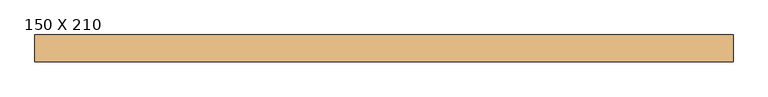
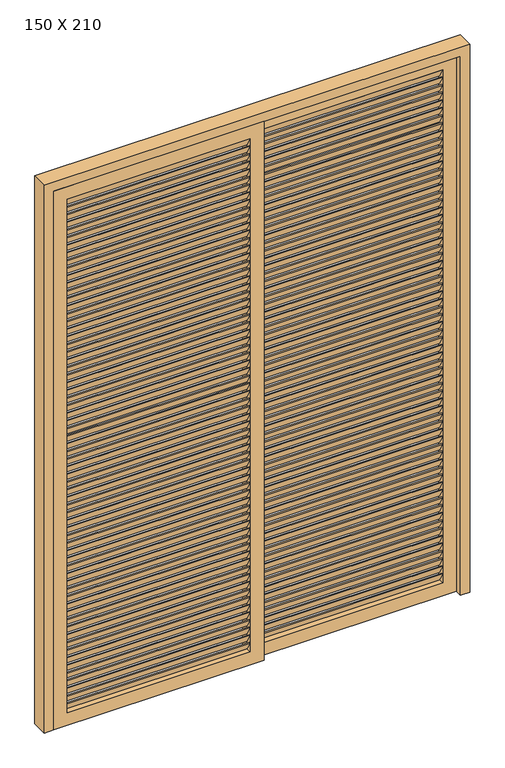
"""IFC4 building model written with IfcOpenShell, lengths in millimetres: door geometry, PORTA VENEZIANA DE CORRER - 2 FOLHAS : 150 X 210."""

import ifcopenshell
import ifcopenshell.guid

model = None  # the IFC model being written
_history = None  # IfcOwnerHistory: only IFC2X3 demands one
_inside = {}  # id of a spatial element -> (the spatial element, [elements in it])
_under = {}  # id of a project, library or spatial element -> (it, [spatial elements below it])
_declared = {}  # id of a project -> (the project, [libraries it declares])
_typed = {}  # id of a type object -> (the type object, [elements of that type])
_made_of = {}  # id of a material, layer set ... -> (it, [elements and type objects made of it])


def new_model(schema):
    """Start an empty IFC model of exactly this schema.

    Asked for "IFC4X3", IfcOpenShell would pick the latest addendum, in which some entities
    have other attributes; the version numbers below select the first issue.
    IFC2X3 requires an IfcOwnerHistory on every rooted entity: one is made here for all.
    """
    global model, _history
    if schema == "IFC4X3":
        model = ifcopenshell.file(schema_version=(4, 3, 0, 0))
    else:
        model = ifcopenshell.file(schema=schema)
    _inside.clear()
    _under.clear()
    _declared.clear()
    _typed.clear()
    _made_of.clear()
    _history = None
    if model.schema == "IFC2X3":
        org = make("IfcOrganization", Name="unknown")
        user = make(
            "IfcPersonAndOrganization",
            ThePerson=make("IfcPerson", FamilyName="unknown"),
            TheOrganization=org,
        )
        app = make(
            "IfcApplication",
            ApplicationDeveloper=org,
            Version="unknown",
            ApplicationFullName="unknown",
            ApplicationIdentifier="unknown",
        )
        _history = make(
            "IfcOwnerHistory",
            OwningUser=user,
            OwningApplication=app,
            ChangeAction="ADDED",
            CreationDate=0,
        )
    return model


def make(cls, **values):
    """One entity of the class cls with the attributes given. An attribute that is None is left unset."""
    return model.create_entity(
        cls, **{name: value for name, value in values.items() if value is not None}
    )


def rooted(cls, **values):
    """An entity with a GlobalId (a new one), such as an element, a storey or a relation."""
    return make(cls, GlobalId=ifcopenshell.guid.new(), OwnerHistory=_history, **values)


def si_unit(unit_type, name, prefix=None):
    """IfcSIUnit, for example si_unit("LENGTHUNIT", "METRE", prefix="MILLI")."""
    return make("IfcSIUnit", UnitType=unit_type, Prefix=prefix, Name=name)


def assignment(units):
    """IfcUnitAssignment: the units of a project."""
    return None if units is None else make("IfcUnitAssignment", Units=units)


def point(xyz):
    """IfcCartesianPoint."""
    return None if xyz is None else make("IfcCartesianPoint", Coordinates=xyz)


def direction(xyz):
    """IfcDirection."""
    return None if xyz is None else make("IfcDirection", DirectionRatios=xyz)


def frame(location, z_axis=None, x_axis=None):
    """IfcAxis2Placement3D, a coordinate frame: its origin and axes. An axis left out is left unset."""
    return make(
        "IfcAxis2Placement3D",
        Location=point(location),
        Axis=direction(z_axis),
        RefDirection=direction(x_axis),
    )


def origin():
    """The frame at (0, 0, 0) with its axes left unset."""
    return frame((0.0, 0.0, 0.0))


def place(relative_to, where):
    """IfcLocalPlacement: puts the frame where relative to a parent placement (None: the world)."""
    return make(
        "IfcLocalPlacement", PlacementRelTo=relative_to, RelativePlacement=where
    )


def context(
    kind, dimensions, precision=None, world=None, true_north=None, identifier=None
):
    """IfcGeometricRepresentationContext, for example the 3D "Model" context."""
    return make(
        "IfcGeometricRepresentationContext",
        ContextIdentifier=identifier,
        ContextType=kind,
        CoordinateSpaceDimension=dimensions,
        Precision=precision,
        WorldCoordinateSystem=world,
        TrueNorth=true_north,
    )


def project(units=None, contexts=None):
    """IfcProject with its units and contexts."""
    return rooted(
        "IfcProject",
        Name="project",
        RepresentationContexts=contexts,
        UnitsInContext=assignment(units),
    )


def spatial(cls, under=None, at=None, **own):
    """A site, building, storey or space (cls), placed at a placement, below another one or the project."""
    s = rooted(cls, ObjectPlacement=at, **own)
    if under is not None:
        _under.setdefault(under.id(), (under, []))[1].append(s)
    return s


def polyline(points):
    """IfcPolyline through the points."""
    return make("IfcPolyline", Points=[point(p) for p in points])


def outline(outer, holes=None, kind="AREA"):
    """IfcArbitraryClosedProfileDef: a profile drawn as a closed curve; with holes, ...WithVoids."""
    if holes is None:
        return make("IfcArbitraryClosedProfileDef", ProfileType=kind, OuterCurve=outer)
    return make(
        "IfcArbitraryProfileDefWithVoids",
        ProfileType=kind,
        OuterCurve=outer,
        InnerCurves=holes,
    )


def extrude(swept, where, along, depth):
    """IfcExtrudedAreaSolid: the profile swept, set in the frame where, extruded along a direction by depth."""
    return make(
        "IfcExtrudedAreaSolid",
        SweptArea=swept,
        Position=where,
        ExtrudedDirection=direction(along),
        Depth=depth,
    )


def shape(context_of_items, identifier, shape_type, items):
    """IfcShapeRepresentation: the items that make up one representation, for example the "Body"."""
    return make(
        "IfcShapeRepresentation",
        ContextOfItems=context_of_items,
        RepresentationIdentifier=identifier,
        RepresentationType=shape_type,
        Items=items,
    )


def source(mapping_origin, context_of_items, identifier, shape_type, items):
    """IfcRepresentationMap: a shape defined once, which mapped items show again and again."""
    return make(
        "IfcRepresentationMap",
        MappingOrigin=mapping_origin,
        MappedRepresentation=shape(context_of_items, identifier, shape_type, items),
    )


def transform(
    local_origin,
    x_axis=None,
    y_axis=None,
    z_axis=None,
    scale=None,
    scale2=None,
    scale3=None,
    uniform=True,
):
    """IfcCartesianTransformationOperator3D, or its non-uniform kind. x_axis, y_axis, z_axis: its Axis1, 2, 3."""
    if uniform:
        return make(
            "IfcCartesianTransformationOperator3D",
            Axis1=direction(x_axis),
            Axis2=direction(y_axis),
            LocalOrigin=point(local_origin),
            Scale=scale,
            Axis3=direction(z_axis),
        )
    return make(
        "IfcCartesianTransformationOperator3DnonUniform",
        Axis1=direction(x_axis),
        Axis2=direction(y_axis),
        LocalOrigin=point(local_origin),
        Scale=scale,
        Axis3=direction(z_axis),
        Scale2=scale2,
        Scale3=scale3,
    )


def mapped(mapping_source, mapping_target):
    """IfcMappedItem: shows the shape of a source again, moved by a transform."""
    return make(
        "IfcMappedItem", MappingSource=mapping_source, MappingTarget=mapping_target
    )


def made_of(thing, what):
    """Note that an element or type object is made of a material, layer set ...; save() writes the relation."""
    if what is not None:
        _made_of.setdefault(what.id(), (what, []))[1].append(thing)
    return thing


def element(
    cls,
    number,
    at=None,
    inside=None,
    cuts=None,
    type_object=None,
    material=None,
    context=None,
    identifier="Body",
    shape_type=None,
    held_by="IfcProductDefinitionShape",
    body=None,
    shapes=None,
    **own,
):
    """One element of the class cls, such as IfcWall. Its Tag is "e" and its number.

    at: its placement. inside: the storey or other place that contains it. cuts: it is an
    opening in that element (IfcRelVoidsElement). A single representation is given by context,
    identifier, shape_type and body (its items); several are given by shapes. held_by: the class
    of the entity that holds the representations. save() writes the other relations.
    """
    e = rooted(cls, Tag="e%d" % number, ObjectPlacement=at, **own)
    if body is not None:
        shapes = [shape(context, identifier, shape_type, body)]
    if shapes is not None:
        e.Representation = make(held_by, Representations=shapes)
    if inside is not None:
        _inside.setdefault(inside.id(), (inside, []))[1].append(e)
    if cuts is not None:
        rooted(
            "IfcRelVoidsElement", RelatingBuildingElement=cuts, RelatedOpeningElement=e
        )
    if type_object is not None:
        _typed.setdefault(type_object.id(), (type_object, []))[1].append(e)
    return made_of(e, material)


def aggregate(whole, parts):
    """IfcRelAggregates: a whole, such as a stair, and the parts it consists of."""
    return rooted("IfcRelAggregates", RelatingObject=whole, RelatedObjects=parts)


def save(model, path):
    """Write the relations noted so far, then the file.

    IfcRelAggregates (storeys below a building ...), IfcRelContainedInSpatialStructure (elements
    in a storey), IfcRelDefinesByType, IfcRelAssociatesMaterial and IfcRelDeclares: one each for
    every whole, place, type object, material and project.
    """
    for whole, parts in _under.values():
        aggregate(whole, parts)
    for where, things in _inside.values():
        rooted(
            "IfcRelContainedInSpatialStructure",
            RelatedElements=things,
            RelatingStructure=where,
        )
    for kind, things in _typed.values():
        rooted("IfcRelDefinesByType", RelatedObjects=things, RelatingType=kind)
    for what, things in _made_of.values():
        rooted("IfcRelAssociatesMaterial", RelatedObjects=things, RelatingMaterial=what)
    for by, libraries in _declared.values():
        rooted("IfcRelDeclares", RelatingContext=by, RelatedDefinitions=libraries)
    model.write(path)


def door_150_x_210_43c40135(model_context):
    return source(origin(), model_context, "Body", "SweptSolid", [
        extrude(outline(polyline([(-28.0041286, 1985.2272727), (-48.0041286, 2020.2272727), (-43.0041286, 2020.2272727), (-23.0041286, 1985.2272727), (-28.0041286, 1985.2272727)])), frame((98.1608739, 0.0, 0.0), z_axis=(1.0, 0.0, 0.0), x_axis=(0.0, 1.0, 0.0)), (0.0, 0.0, 1.0), 675.0),
        extrude(outline(polyline([(-28.0041286, 1955.4545455), (-48.0041286, 1990.4545455), (-43.0041286, 1990.4545455), (-23.0041286, 1955.4545455), (-28.0041286, 1955.4545455)])), frame((98.1608739, 0.0, 0.0), z_axis=(1.0, 0.0, 0.0), x_axis=(0.0, 1.0, 0.0)), (0.0, 0.0, 1.0), 675.0),
        extrude(outline(polyline([(-28.0041286, 1925.6818182), (-48.0041286, 1960.6818182), (-43.0041286, 1960.6818182), (-23.0041286, 1925.6818182), (-28.0041286, 1925.6818182)])), frame((98.1608739, 0.0, 0.0), z_axis=(1.0, 0.0, 0.0), x_axis=(0.0, 1.0, 0.0)), (0.0, 0.0, 1.0), 675.0),
        extrude(outline(polyline([(-28.0041286, 1895.9090909), (-48.0041286, 1930.9090909), (-43.0041286, 1930.9090909), (-23.0041286, 1895.9090909), (-28.0041286, 1895.9090909)])), frame((98.1608739, 0.0, 0.0), z_axis=(1.0, 0.0, 0.0), x_axis=(0.0, 1.0, 0.0)), (0.0, 0.0, 1.0), 675.0),
        extrude(outline(polyline([(-28.0041286, 1866.1363636), (-48.0041286, 1901.1363636), (-43.0041286, 1901.1363636), (-23.0041286, 1866.1363636), (-28.0041286, 1866.1363636)])), frame((98.1608739, 0.0, 0.0), z_axis=(1.0, 0.0, 0.0), x_axis=(0.0, 1.0, 0.0)), (0.0, 0.0, 1.0), 675.0),
        extrude(outline(polyline([(-28.0041286, 1836.3636364), (-48.0041286, 1871.3636364), (-43.0041286, 1871.3636364), (-23.0041286, 1836.3636364), (-28.0041286, 1836.3636364)])), frame((98.1608739, 0.0, 0.0), z_axis=(1.0, 0.0, 0.0), x_axis=(0.0, 1.0, 0.0)), (0.0, 0.0, 1.0), 675.0),
        extrude(outline(polyline([(-28.0041286, 1806.5909091), (-48.0041286, 1841.5909091), (-43.0041286, 1841.5909091), (-23.0041286, 1806.5909091), (-28.0041286, 1806.5909091)])), frame((98.1608739, 0.0, 0.0), z_axis=(1.0, 0.0, 0.0), x_axis=(0.0, 1.0, 0.0)), (0.0, 0.0, 1.0), 675.0),
        extrude(outline(polyline([(-28.0041286, 1776.8181818), (-48.0041286, 1811.8181818), (-43.0041286, 1811.8181818), (-23.0041286, 1776.8181818), (-28.0041286, 1776.8181818)])), frame((98.1608739, 0.0, 0.0), z_axis=(1.0, 0.0, 0.0), x_axis=(0.0, 1.0, 0.0)), (0.0, 0.0, 1.0), 675.0),
        extrude(outline(polyline([(-28.0041286, 1747.0454545), (-48.0041286, 1782.0454545), (-43.0041286, 1782.0454545), (-23.0041286, 1747.0454545), (-28.0041286, 1747.0454545)])), frame((98.1608739, 0.0, 0.0), z_axis=(1.0, 0.0, 0.0), x_axis=(0.0, 1.0, 0.0)), (0.0, 0.0, 1.0), 675.0),
        extrude(outline(polyline([(-28.0041286, 1717.2727273), (-48.0041286, 1752.2727273), (-43.0041286, 1752.2727273), (-23.0041286, 1717.2727273), (-28.0041286, 1717.2727273)])), frame((98.1608739, 0.0, 0.0), z_axis=(1.0, 0.0, 0.0), x_axis=(0.0, 1.0, 0.0)), (0.0, 0.0, 1.0), 675.0),
        extrude(outline(polyline([(-28.0041286, 1687.5), (-48.0041286, 1722.5), (-43.0041286, 1722.5), (-23.0041286, 1687.5), (-28.0041286, 1687.5)])), frame((98.1608739, 0.0, 0.0), z_axis=(1.0, 0.0, 0.0), x_axis=(0.0, 1.0, 0.0)), (0.0, 0.0, 1.0), 675.0),
        extrude(outline(polyline([(-28.0041286, 1657.7272727), (-48.0041286, 1692.7272727), (-43.0041286, 1692.7272727), (-23.0041286, 1657.7272727), (-28.0041286, 1657.7272727)])), frame((98.1608739, 0.0, 0.0), z_axis=(1.0, 0.0, 0.0), x_axis=(0.0, 1.0, 0.0)), (0.0, 0.0, 1.0), 675.0),
        extrude(outline(polyline([(-28.0041286, 1627.9545455), (-48.0041286, 1662.9545455), (-43.0041286, 1662.9545455), (-23.0041286, 1627.9545455), (-28.0041286, 1627.9545455)])), frame((98.1608739, 0.0, 0.0), z_axis=(1.0, 0.0, 0.0), x_axis=(0.0, 1.0, 0.0)), (0.0, 0.0, 1.0), 675.0),
        extrude(outline(polyline([(-28.0041286, 1598.1818182), (-48.0041286, 1633.1818182), (-43.0041286, 1633.1818182), (-23.0041286, 1598.1818182), (-28.0041286, 1598.1818182)])), frame((98.1608739, 0.0, 0.0), z_axis=(1.0, 0.0, 0.0), x_axis=(0.0, 1.0, 0.0)), (0.0, 0.0, 1.0), 675.0),
        extrude(outline(polyline([(-28.0041286, 1568.4090909), (-48.0041286, 1603.4090909), (-43.0041286, 1603.4090909), (-23.0041286, 1568.4090909), (-28.0041286, 1568.4090909)])), frame((98.1608739, 0.0, 0.0), z_axis=(1.0, 0.0, 0.0), x_axis=(0.0, 1.0, 0.0)), (0.0, 0.0, 1.0), 675.0),
        extrude(outline(polyline([(-28.0041286, 1538.6363636), (-48.0041286, 1573.6363636), (-43.0041286, 1573.6363636), (-23.0041286, 1538.6363636), (-28.0041286, 1538.6363636)])), frame((98.1608739, 0.0, 0.0), z_axis=(1.0, 0.0, 0.0), x_axis=(0.0, 1.0, 0.0)), (0.0, 0.0, 1.0), 675.0),
        extrude(outline(polyline([(-28.0041286, 1508.8636364), (-48.0041286, 1543.8636364), (-43.0041286, 1543.8636364), (-23.0041286, 1508.8636364), (-28.0041286, 1508.8636364)])), frame((98.1608739, 0.0, 0.0), z_axis=(1.0, 0.0, 0.0), x_axis=(0.0, 1.0, 0.0)), (0.0, 0.0, 1.0), 675.0),
        extrude(outline(polyline([(-28.0041286, 1479.0909091), (-48.0041286, 1514.0909091), (-43.0041286, 1514.0909091), (-23.0041286, 1479.0909091), (-28.0041286, 1479.0909091)])), frame((98.1608739, 0.0, 0.0), z_axis=(1.0, 0.0, 0.0), x_axis=(0.0, 1.0, 0.0)), (0.0, 0.0, 1.0), 675.0),
        extrude(outline(polyline([(-28.0041286, 1449.3181818), (-48.0041286, 1484.3181818), (-43.0041286, 1484.3181818), (-23.0041286, 1449.3181818), (-28.0041286, 1449.3181818)])), frame((98.1608739, 0.0, 0.0), z_axis=(1.0, 0.0, 0.0), x_axis=(0.0, 1.0, 0.0)), (0.0, 0.0, 1.0), 675.0),
        extrude(outline(polyline([(-28.0041286, 1419.5454545), (-48.0041286, 1454.5454545), (-43.0041286, 1454.5454545), (-23.0041286, 1419.5454545), (-28.0041286, 1419.5454545)])), frame((98.1608739, 0.0, 0.0), z_axis=(1.0, 0.0, 0.0), x_axis=(0.0, 1.0, 0.0)), (0.0, 0.0, 1.0), 675.0),
        extrude(outline(polyline([(-28.0041286, 1389.7727273), (-48.0041286, 1424.7727273), (-43.0041286, 1424.7727273), (-23.0041286, 1389.7727273), (-28.0041286, 1389.7727273)])), frame((98.1608739, 0.0, 0.0), z_axis=(1.0, 0.0, 0.0), x_axis=(0.0, 1.0, 0.0)), (0.0, 0.0, 1.0), 675.0),
        extrude(outline(polyline([(-28.0041286, 1360.0), (-48.0041286, 1395.0), (-43.0041286, 1395.0), (-23.0041286, 1360.0), (-28.0041286, 1360.0)])), frame((98.1608739, 0.0, 0.0), z_axis=(1.0, 0.0, 0.0), x_axis=(0.0, 1.0, 0.0)), (0.0, 0.0, 1.0), 675.0),
        extrude(outline(polyline([(-28.0041286, 1330.2272727), (-48.0041286, 1365.2272727), (-43.0041286, 1365.2272727), (-23.0041286, 1330.2272727), (-28.0041286, 1330.2272727)])), frame((98.1608739, 0.0, 0.0), z_axis=(1.0, 0.0, 0.0), x_axis=(0.0, 1.0, 0.0)), (0.0, 0.0, 1.0), 675.0),
        extrude(outline(polyline([(-28.0041286, 1300.4545455), (-48.0041286, 1335.4545455), (-43.0041286, 1335.4545455), (-23.0041286, 1300.4545455), (-28.0041286, 1300.4545455)])), frame((98.1608739, 0.0, 0.0), z_axis=(1.0, 0.0, 0.0), x_axis=(0.0, 1.0, 0.0)), (0.0, 0.0, 1.0), 675.0),
        extrude(outline(polyline([(-28.0041286, 1270.6818182), (-48.0041286, 1305.6818182), (-43.0041286, 1305.6818182), (-23.0041286, 1270.6818182), (-28.0041286, 1270.6818182)])), frame((98.1608739, 0.0, 0.0), z_axis=(1.0, 0.0, 0.0), x_axis=(0.0, 1.0, 0.0)), (0.0, 0.0, 1.0), 675.0),
        extrude(outline(polyline([(-28.0041286, 1240.9090909), (-48.0041286, 1275.9090909), (-43.0041286, 1275.9090909), (-23.0041286, 1240.9090909), (-28.0041286, 1240.9090909)])), frame((98.1608739, 0.0, 0.0), z_axis=(1.0, 0.0, 0.0), x_axis=(0.0, 1.0, 0.0)), (0.0, 0.0, 1.0), 675.0),
        extrude(outline(polyline([(-28.0041286, 1211.1363636), (-48.0041286, 1246.1363636), (-43.0041286, 1246.1363636), (-23.0041286, 1211.1363636), (-28.0041286, 1211.1363636)])), frame((98.1608739, 0.0, 0.0), z_axis=(1.0, 0.0, 0.0), x_axis=(0.0, 1.0, 0.0)), (0.0, 0.0, 1.0), 675.0),
        extrude(outline(polyline([(-28.0041286, 1181.3636364), (-48.0041286, 1216.3636364), (-43.0041286, 1216.3636364), (-23.0041286, 1181.3636364), (-28.0041286, 1181.3636364)])), frame((98.1608739, 0.0, 0.0), z_axis=(1.0, 0.0, 0.0), x_axis=(0.0, 1.0, 0.0)), (0.0, 0.0, 1.0), 675.0),
        extrude(outline(polyline([(-28.0041286, 1151.5909091), (-48.0041286, 1186.5909091), (-43.0041286, 1186.5909091), (-23.0041286, 1151.5909091), (-28.0041286, 1151.5909091)])), frame((98.1608739, 0.0, 0.0), z_axis=(1.0, 0.0, 0.0), x_axis=(0.0, 1.0, 0.0)), (0.0, 0.0, 1.0), 675.0),
        extrude(outline(polyline([(-28.0041286, 1121.8181818), (-48.0041286, 1156.8181818), (-43.0041286, 1156.8181818), (-23.0041286, 1121.8181818), (-28.0041286, 1121.8181818)])), frame((98.1608739, 0.0, 0.0), z_axis=(1.0, 0.0, 0.0), x_axis=(0.0, 1.0, 0.0)), (0.0, 0.0, 1.0), 675.0),
        extrude(outline(polyline([(-28.0041286, 1092.0454545), (-48.0041286, 1127.0454545), (-43.0041286, 1127.0454545), (-23.0041286, 1092.0454545), (-28.0041286, 1092.0454545)])), frame((98.1608739, 0.0, 0.0), z_axis=(1.0, 0.0, 0.0), x_axis=(0.0, 1.0, 0.0)), (0.0, 0.0, 1.0), 675.0),
        extrude(outline(polyline([(-28.0041286, 1062.2727273), (-48.0041286, 1097.2727273), (-43.0041286, 1097.2727273), (-23.0041286, 1062.2727273), (-28.0041286, 1062.2727273)])), frame((98.1608739, 0.0, 0.0), z_axis=(1.0, 0.0, 0.0), x_axis=(0.0, 1.0, 0.0)), (0.0, 0.0, 1.0), 675.0),
        extrude(outline(polyline([(-28.0041286, 1032.5), (-48.0041286, 1067.5), (-43.0041286, 1067.5), (-23.0041286, 1032.5), (-28.0041286, 1032.5)])), frame((98.1608739, 0.0, 0.0), z_axis=(1.0, 0.0, 0.0), x_axis=(0.0, 1.0, 0.0)), (0.0, 0.0, 1.0), 675.0),
        extrude(outline(polyline([(-28.0041286, 1002.7272727), (-48.0041286, 1037.7272727), (-43.0041286, 1037.7272727), (-23.0041286, 1002.7272727), (-28.0041286, 1002.7272727)])), frame((98.1608739, 0.0, 0.0), z_axis=(1.0, 0.0, 0.0), x_axis=(0.0, 1.0, 0.0)), (0.0, 0.0, 1.0), 675.0),
        extrude(outline(polyline([(-28.0041286, 972.9545455), (-48.0041286, 1007.9545455), (-43.0041286, 1007.9545455), (-23.0041286, 972.9545455), (-28.0041286, 972.9545455)])), frame((98.1608739, 0.0, 0.0), z_axis=(1.0, 0.0, 0.0), x_axis=(0.0, 1.0, 0.0)), (0.0, 0.0, 1.0), 675.0),
        extrude(outline(polyline([(-28.0041286, 943.1818182), (-48.0041286, 978.1818182), (-43.0041286, 978.1818182), (-23.0041286, 943.1818182), (-28.0041286, 943.1818182)])), frame((98.1608739, 0.0, 0.0), z_axis=(1.0, 0.0, 0.0), x_axis=(0.0, 1.0, 0.0)), (0.0, 0.0, 1.0), 675.0),
        extrude(outline(polyline([(-28.0041286, 913.4090909), (-48.0041286, 948.4090909), (-43.0041286, 948.4090909), (-23.0041286, 913.4090909), (-28.0041286, 913.4090909)])), frame((98.1608739, 0.0, 0.0), z_axis=(1.0, 0.0, 0.0), x_axis=(0.0, 1.0, 0.0)), (0.0, 0.0, 1.0), 675.0),
        extrude(outline(polyline([(-28.0041286, 883.6363636), (-48.0041286, 918.6363636), (-43.0041286, 918.6363636), (-23.0041286, 883.6363636), (-28.0041286, 883.6363636)])), frame((98.1608739, 0.0, 0.0), z_axis=(1.0, 0.0, 0.0), x_axis=(0.0, 1.0, 0.0)), (0.0, 0.0, 1.0), 675.0),
        extrude(outline(polyline([(-28.0041286, 853.8636364), (-48.0041286, 888.8636364), (-43.0041286, 888.8636364), (-23.0041286, 853.8636364), (-28.0041286, 853.8636364)])), frame((98.1608739, 0.0, 0.0), z_axis=(1.0, 0.0, 0.0), x_axis=(0.0, 1.0, 0.0)), (0.0, 0.0, 1.0), 675.0),
        extrude(outline(polyline([(-28.0041286, 824.0909091), (-48.0041286, 859.0909091), (-43.0041286, 859.0909091), (-23.0041286, 824.0909091), (-28.0041286, 824.0909091)])), frame((98.1608739, 0.0, 0.0), z_axis=(1.0, 0.0, 0.0), x_axis=(0.0, 1.0, 0.0)), (0.0, 0.0, 1.0), 675.0),
        extrude(outline(polyline([(-28.0041286, 794.3181818), (-48.0041286, 829.3181818), (-43.0041286, 829.3181818), (-23.0041286, 794.3181818), (-28.0041286, 794.3181818)])), frame((98.1608739, 0.0, 0.0), z_axis=(1.0, 0.0, 0.0), x_axis=(0.0, 1.0, 0.0)), (0.0, 0.0, 1.0), 675.0),
        extrude(outline(polyline([(-28.0041286, 764.5454545), (-48.0041286, 799.5454545), (-43.0041286, 799.5454545), (-23.0041286, 764.5454545), (-28.0041286, 764.5454545)])), frame((98.1608739, 0.0, 0.0), z_axis=(1.0, 0.0, 0.0), x_axis=(0.0, 1.0, 0.0)), (0.0, 0.0, 1.0), 675.0),
        extrude(outline(polyline([(-28.0041286, 734.7727273), (-48.0041286, 769.7727273), (-43.0041286, 769.7727273), (-23.0041286, 734.7727273), (-28.0041286, 734.7727273)])), frame((98.1608739, 0.0, 0.0), z_axis=(1.0, 0.0, 0.0), x_axis=(0.0, 1.0, 0.0)), (0.0, 0.0, 1.0), 675.0),
        extrude(outline(polyline([(-28.0041286, 705.0), (-48.0041286, 740.0), (-43.0041286, 740.0), (-23.0041286, 705.0), (-28.0041286, 705.0)])), frame((98.1608739, 0.0, 0.0), z_axis=(1.0, 0.0, 0.0), x_axis=(0.0, 1.0, 0.0)), (0.0, 0.0, 1.0), 675.0),
        extrude(outline(polyline([(-28.0041286, 675.2272727), (-48.0041286, 710.2272727), (-43.0041286, 710.2272727), (-23.0041286, 675.2272727), (-28.0041286, 675.2272727)])), frame((98.1608739, 0.0, 0.0), z_axis=(1.0, 0.0, 0.0), x_axis=(0.0, 1.0, 0.0)), (0.0, 0.0, 1.0), 675.0),
        extrude(outline(polyline([(-28.0041286, 645.4545455), (-48.0041286, 680.4545455), (-43.0041286, 680.4545455), (-23.0041286, 645.4545455), (-28.0041286, 645.4545455)])), frame((98.1608739, 0.0, 0.0), z_axis=(1.0, 0.0, 0.0), x_axis=(0.0, 1.0, 0.0)), (0.0, 0.0, 1.0), 675.0),
        extrude(outline(polyline([(-28.0041286, 615.6818182), (-48.0041286, 650.6818182), (-43.0041286, 650.6818182), (-23.0041286, 615.6818182), (-28.0041286, 615.6818182)])), frame((98.1608739, 0.0, 0.0), z_axis=(1.0, 0.0, 0.0), x_axis=(0.0, 1.0, 0.0)), (0.0, 0.0, 1.0), 675.0),
        extrude(outline(polyline([(-28.0041286, 585.9090909), (-48.0041286, 620.9090909), (-43.0041286, 620.9090909), (-23.0041286, 585.9090909), (-28.0041286, 585.9090909)])), frame((98.1608739, 0.0, 0.0), z_axis=(1.0, 0.0, 0.0), x_axis=(0.0, 1.0, 0.0)), (0.0, 0.0, 1.0), 675.0),
        extrude(outline(polyline([(-28.0041286, 556.1363636), (-48.0041286, 591.1363636), (-43.0041286, 591.1363636), (-23.0041286, 556.1363636), (-28.0041286, 556.1363636)])), frame((98.1608739, 0.0, 0.0), z_axis=(1.0, 0.0, 0.0), x_axis=(0.0, 1.0, 0.0)), (0.0, 0.0, 1.0), 675.0),
        extrude(outline(polyline([(-28.0041286, 526.3636364), (-48.0041286, 561.3636364), (-43.0041286, 561.3636364), (-23.0041286, 526.3636364), (-28.0041286, 526.3636364)])), frame((98.1608739, 0.0, 0.0), z_axis=(1.0, 0.0, 0.0), x_axis=(0.0, 1.0, 0.0)), (0.0, 0.0, 1.0), 675.0),
        extrude(outline(polyline([(-28.0041286, 496.5909091), (-48.0041286, 531.5909091), (-43.0041286, 531.5909091), (-23.0041286, 496.5909091), (-28.0041286, 496.5909091)])), frame((98.1608739, 0.0, 0.0), z_axis=(1.0, 0.0, 0.0), x_axis=(0.0, 1.0, 0.0)), (0.0, 0.0, 1.0), 675.0),
        extrude(outline(polyline([(-28.0041286, 466.8181818), (-48.0041286, 501.8181818), (-43.0041286, 501.8181818), (-23.0041286, 466.8181818), (-28.0041286, 466.8181818)])), frame((98.1608739, 0.0, 0.0), z_axis=(1.0, 0.0, 0.0), x_axis=(0.0, 1.0, 0.0)), (0.0, 0.0, 1.0), 675.0),
        extrude(outline(polyline([(-28.0041286, 437.0454545), (-48.0041286, 472.0454545), (-43.0041286, 472.0454545), (-23.0041286, 437.0454545), (-28.0041286, 437.0454545)])), frame((98.1608739, 0.0, 0.0), z_axis=(1.0, 0.0, 0.0), x_axis=(0.0, 1.0, 0.0)), (0.0, 0.0, 1.0), 675.0),
        extrude(outline(polyline([(-28.0041286, 407.2727273), (-48.0041286, 442.2727273), (-43.0041286, 442.2727273), (-23.0041286, 407.2727273), (-28.0041286, 407.2727273)])), frame((98.1608739, 0.0, 0.0), z_axis=(1.0, 0.0, 0.0), x_axis=(0.0, 1.0, 0.0)), (0.0, 0.0, 1.0), 675.0),
        extrude(outline(polyline([(-28.0041286, 377.5), (-48.0041286, 412.5), (-43.0041286, 412.5), (-23.0041286, 377.5), (-28.0041286, 377.5)])), frame((98.1608739, 0.0, 0.0), z_axis=(1.0, 0.0, 0.0), x_axis=(0.0, 1.0, 0.0)), (0.0, 0.0, 1.0), 675.0),
        extrude(outline(polyline([(-28.0041286, 347.7272727), (-48.0041286, 382.7272727), (-43.0041286, 382.7272727), (-23.0041286, 347.7272727), (-28.0041286, 347.7272727)])), frame((98.1608739, 0.0, 0.0), z_axis=(1.0, 0.0, 0.0), x_axis=(0.0, 1.0, 0.0)), (0.0, 0.0, 1.0), 675.0),
        extrude(outline(polyline([(-28.0041286, 317.9545455), (-48.0041286, 352.9545455), (-43.0041286, 352.9545455), (-23.0041286, 317.9545455), (-28.0041286, 317.9545455)])), frame((98.1608739, 0.0, 0.0), z_axis=(1.0, 0.0, 0.0), x_axis=(0.0, 1.0, 0.0)), (0.0, 0.0, 1.0), 675.0),
        extrude(outline(polyline([(-28.0041286, 288.1818182), (-48.0041286, 323.1818182), (-43.0041286, 323.1818182), (-23.0041286, 288.1818182), (-28.0041286, 288.1818182)])), frame((98.1608739, 0.0, 0.0), z_axis=(1.0, 0.0, 0.0), x_axis=(0.0, 1.0, 0.0)), (0.0, 0.0, 1.0), 675.0),
        extrude(outline(polyline([(-28.0041286, 258.4090909), (-48.0041286, 293.4090909), (-43.0041286, 293.4090909), (-23.0041286, 258.4090909), (-28.0041286, 258.4090909)])), frame((98.1608739, 0.0, 0.0), z_axis=(1.0, 0.0, 0.0), x_axis=(0.0, 1.0, 0.0)), (0.0, 0.0, 1.0), 675.0),
        extrude(outline(polyline([(-28.0041286, 228.6363636), (-48.0041286, 263.6363636), (-43.0041286, 263.6363636), (-23.0041286, 228.6363636), (-28.0041286, 228.6363636)])), frame((98.1608739, 0.0, 0.0), z_axis=(1.0, 0.0, 0.0), x_axis=(0.0, 1.0, 0.0)), (0.0, 0.0, 1.0), 675.0),
        extrude(outline(polyline([(-28.0041286, 198.8636364), (-48.0041286, 233.8636364), (-43.0041286, 233.8636364), (-23.0041286, 198.8636364), (-28.0041286, 198.8636364)])), frame((98.1608739, 0.0, 0.0), z_axis=(1.0, 0.0, 0.0), x_axis=(0.0, 1.0, 0.0)), (0.0, 0.0, 1.0), 675.0),
        extrude(outline(polyline([(-28.0041286, 169.0909091), (-48.0041286, 204.0909091), (-43.0041286, 204.0909091), (-23.0041286, 169.0909091), (-28.0041286, 169.0909091)])), frame((98.1608739, 0.0, 0.0), z_axis=(1.0, 0.0, 0.0), x_axis=(0.0, 1.0, 0.0)), (0.0, 0.0, 1.0), 675.0),
        extrude(outline(polyline([(-28.0041286, 139.3181818), (-48.0041286, 174.3181818), (-43.0041286, 174.3181818), (-23.0041286, 139.3181818), (-28.0041286, 139.3181818)])), frame((98.1608739, 0.0, 0.0), z_axis=(1.0, 0.0, 0.0), x_axis=(0.0, 1.0, 0.0)), (0.0, 0.0, 1.0), 675.0),
        extrude(outline(polyline([(-28.0041286, 109.5454545), (-48.0041286, 144.5454545), (-43.0041286, 144.5454545), (-23.0041286, 109.5454545), (-28.0041286, 109.5454545)])), frame((98.1608739, 0.0, 0.0), z_axis=(1.0, 0.0, 0.0), x_axis=(0.0, 1.0, 0.0)), (0.0, 0.0, 1.0), 675.0),
        extrude(outline(polyline([(-28.0041286, 79.7727273), (-48.0041286, 114.7727273), (-43.0041286, 114.7727273), (-23.0041286, 79.7727273), (-28.0041286, 79.7727273)])), frame((98.1608739, 0.0, 0.0), z_axis=(1.0, 0.0, 0.0), x_axis=(0.0, 1.0, 0.0)), (0.0, 0.0, 1.0), 675.0),
        extrude(outline(polyline([(-28.0041286, 2015.0), (-48.0041286, 2050.0), (-43.0041286, 2050.0), (-23.0041286, 2015.0), (-28.0041286, 2015.0)])), frame((98.1608739, 0.0, 0.0), z_axis=(1.0, 0.0, 0.0), x_axis=(0.0, 1.0, 0.0)), (0.0, 0.0, 1.0), 675.0),
        extrude(outline(polyline([(-28.0041286, 50.0), (-48.0041286, 85.0), (-43.0041286, 85.0), (-23.0041286, 50.0), (-28.0041286, 50.0)])), frame((98.1608739, 0.0, 0.0), z_axis=(1.0, 0.0, 0.0), x_axis=(0.0, 1.0, 0.0)), (0.0, 0.0, 1.0), 675.0),
        extrude(outline(polyline([(2100.0, 48.1608739), (0.0, 48.1608739), (0.0, 823.1608739), (2100.0, 823.1608739), (2100.0, 48.1608739)]), holes=[polyline([(2050.0, 98.1608739), (2050.0, 773.1608739), (50.0, 773.1608739), (50.0, 98.1608739), (2050.0, 98.1608739)])]), frame((0.0, -48.0041286, 0.0), z_axis=(0.0, 1.0, 0.0), x_axis=(0.0, 0.0, 1.0)), (0.0, 0.0, 1.0), 25.0),
        extrude(outline(polyline([(-53.0041286, 1985.2272727), (-73.0041286, 2020.2272727), (-68.0041286, 2020.2272727), (-48.0041286, 1985.2272727), (-53.0041286, 1985.2272727)])), frame((-626.8391261, 0.0, 0.0), z_axis=(1.0, 0.0, 0.0), x_axis=(0.0, 1.0, 0.0)), (0.0, 0.0, 1.0), 675.0),
        extrude(outline(polyline([(-53.0041286, 1955.4545455), (-73.0041286, 1990.4545455), (-68.0041286, 1990.4545455), (-48.0041286, 1955.4545455), (-53.0041286, 1955.4545455)])), frame((-626.8391261, 0.0, 0.0), z_axis=(1.0, 0.0, 0.0), x_axis=(0.0, 1.0, 0.0)), (0.0, 0.0, 1.0), 675.0),
        extrude(outline(polyline([(-53.0041286, 1925.6818182), (-73.0041286, 1960.6818182), (-68.0041286, 1960.6818182), (-48.0041286, 1925.6818182), (-53.0041286, 1925.6818182)])), frame((-626.8391261, 0.0, 0.0), z_axis=(1.0, 0.0, 0.0), x_axis=(0.0, 1.0, 0.0)), (0.0, 0.0, 1.0), 675.0),
        extrude(outline(polyline([(-53.0041286, 1895.9090909), (-73.0041286, 1930.9090909), (-68.0041286, 1930.9090909), (-48.0041286, 1895.9090909), (-53.0041286, 1895.9090909)])), frame((-626.8391261, 0.0, 0.0), z_axis=(1.0, 0.0, 0.0), x_axis=(0.0, 1.0, 0.0)), (0.0, 0.0, 1.0), 675.0),
        extrude(outline(polyline([(-53.0041286, 1866.1363636), (-73.0041286, 1901.1363636), (-68.0041286, 1901.1363636), (-48.0041286, 1866.1363636), (-53.0041286, 1866.1363636)])), frame((-626.8391261, 0.0, 0.0), z_axis=(1.0, 0.0, 0.0), x_axis=(0.0, 1.0, 0.0)), (0.0, 0.0, 1.0), 675.0),
        extrude(outline(polyline([(-53.0041286, 1836.3636364), (-73.0041286, 1871.3636364), (-68.0041286, 1871.3636364), (-48.0041286, 1836.3636364), (-53.0041286, 1836.3636364)])), frame((-626.8391261, 0.0, 0.0), z_axis=(1.0, 0.0, 0.0), x_axis=(0.0, 1.0, 0.0)), (0.0, 0.0, 1.0), 675.0),
        extrude(outline(polyline([(-53.0041286, 1806.5909091), (-73.0041286, 1841.5909091), (-68.0041286, 1841.5909091), (-48.0041286, 1806.5909091), (-53.0041286, 1806.5909091)])), frame((-626.8391261, 0.0, 0.0), z_axis=(1.0, 0.0, 0.0), x_axis=(0.0, 1.0, 0.0)), (0.0, 0.0, 1.0), 675.0),
        extrude(outline(polyline([(-53.0041286, 1776.8181818), (-73.0041286, 1811.8181818), (-68.0041286, 1811.8181818), (-48.0041286, 1776.8181818), (-53.0041286, 1776.8181818)])), frame((-626.8391261, 0.0, 0.0), z_axis=(1.0, 0.0, 0.0), x_axis=(0.0, 1.0, 0.0)), (0.0, 0.0, 1.0), 675.0),
        extrude(outline(polyline([(-53.0041286, 1747.0454545), (-73.0041286, 1782.0454545), (-68.0041286, 1782.0454545), (-48.0041286, 1747.0454545), (-53.0041286, 1747.0454545)])), frame((-626.8391261, 0.0, 0.0), z_axis=(1.0, 0.0, 0.0), x_axis=(0.0, 1.0, 0.0)), (0.0, 0.0, 1.0), 675.0),
        extrude(outline(polyline([(-53.0041286, 1717.2727273), (-73.0041286, 1752.2727273), (-68.0041286, 1752.2727273), (-48.0041286, 1717.2727273), (-53.0041286, 1717.2727273)])), frame((-626.8391261, 0.0, 0.0), z_axis=(1.0, 0.0, 0.0), x_axis=(0.0, 1.0, 0.0)), (0.0, 0.0, 1.0), 675.0),
        extrude(outline(polyline([(-53.0041286, 1687.5), (-73.0041286, 1722.5), (-68.0041286, 1722.5), (-48.0041286, 1687.5), (-53.0041286, 1687.5)])), frame((-626.8391261, 0.0, 0.0), z_axis=(1.0, 0.0, 0.0), x_axis=(0.0, 1.0, 0.0)), (0.0, 0.0, 1.0), 675.0),
        extrude(outline(polyline([(-53.0041286, 1657.7272727), (-73.0041286, 1692.7272727), (-68.0041286, 1692.7272727), (-48.0041286, 1657.7272727), (-53.0041286, 1657.7272727)])), frame((-626.8391261, 0.0, 0.0), z_axis=(1.0, 0.0, 0.0), x_axis=(0.0, 1.0, 0.0)), (0.0, 0.0, 1.0), 675.0),
        extrude(outline(polyline([(-53.0041286, 1627.9545455), (-73.0041286, 1662.9545455), (-68.0041286, 1662.9545455), (-48.0041286, 1627.9545455), (-53.0041286, 1627.9545455)])), frame((-626.8391261, 0.0, 0.0), z_axis=(1.0, 0.0, 0.0), x_axis=(0.0, 1.0, 0.0)), (0.0, 0.0, 1.0), 675.0),
        extrude(outline(polyline([(-53.0041286, 1598.1818182), (-73.0041286, 1633.1818182), (-68.0041286, 1633.1818182), (-48.0041286, 1598.1818182), (-53.0041286, 1598.1818182)])), frame((-626.8391261, 0.0, 0.0), z_axis=(1.0, 0.0, 0.0), x_axis=(0.0, 1.0, 0.0)), (0.0, 0.0, 1.0), 675.0),
        extrude(outline(polyline([(-53.0041286, 1568.4090909), (-73.0041286, 1603.4090909), (-68.0041286, 1603.4090909), (-48.0041286, 1568.4090909), (-53.0041286, 1568.4090909)])), frame((-626.8391261, 0.0, 0.0), z_axis=(1.0, 0.0, 0.0), x_axis=(0.0, 1.0, 0.0)), (0.0, 0.0, 1.0), 675.0),
        extrude(outline(polyline([(-53.0041286, 1538.6363636), (-73.0041286, 1573.6363636), (-68.0041286, 1573.6363636), (-48.0041286, 1538.6363636), (-53.0041286, 1538.6363636)])), frame((-626.8391261, 0.0, 0.0), z_axis=(1.0, 0.0, 0.0), x_axis=(0.0, 1.0, 0.0)), (0.0, 0.0, 1.0), 675.0),
        extrude(outline(polyline([(-53.0041286, 1508.8636364), (-73.0041286, 1543.8636364), (-68.0041286, 1543.8636364), (-48.0041286, 1508.8636364), (-53.0041286, 1508.8636364)])), frame((-626.8391261, 0.0, 0.0), z_axis=(1.0, 0.0, 0.0), x_axis=(0.0, 1.0, 0.0)), (0.0, 0.0, 1.0), 675.0),
        extrude(outline(polyline([(-53.0041286, 1479.0909091), (-73.0041286, 1514.0909091), (-68.0041286, 1514.0909091), (-48.0041286, 1479.0909091), (-53.0041286, 1479.0909091)])), frame((-626.8391261, 0.0, 0.0), z_axis=(1.0, 0.0, 0.0), x_axis=(0.0, 1.0, 0.0)), (0.0, 0.0, 1.0), 675.0),
        extrude(outline(polyline([(-53.0041286, 1449.3181818), (-73.0041286, 1484.3181818), (-68.0041286, 1484.3181818), (-48.0041286, 1449.3181818), (-53.0041286, 1449.3181818)])), frame((-626.8391261, 0.0, 0.0), z_axis=(1.0, 0.0, 0.0), x_axis=(0.0, 1.0, 0.0)), (0.0, 0.0, 1.0), 675.0),
        extrude(outline(polyline([(-53.0041286, 1419.5454545), (-73.0041286, 1454.5454545), (-68.0041286, 1454.5454545), (-48.0041286, 1419.5454545), (-53.0041286, 1419.5454545)])), frame((-626.8391261, 0.0, 0.0), z_axis=(1.0, 0.0, 0.0), x_axis=(0.0, 1.0, 0.0)), (0.0, 0.0, 1.0), 675.0),
        extrude(outline(polyline([(-53.0041286, 1389.7727273), (-73.0041286, 1424.7727273), (-68.0041286, 1424.7727273), (-48.0041286, 1389.7727273), (-53.0041286, 1389.7727273)])), frame((-626.8391261, 0.0, 0.0), z_axis=(1.0, 0.0, 0.0), x_axis=(0.0, 1.0, 0.0)), (0.0, 0.0, 1.0), 675.0),
        extrude(outline(polyline([(-53.0041286, 1360.0), (-73.0041286, 1395.0), (-68.0041286, 1395.0), (-48.0041286, 1360.0), (-53.0041286, 1360.0)])), frame((-626.8391261, 0.0, 0.0), z_axis=(1.0, 0.0, 0.0), x_axis=(0.0, 1.0, 0.0)), (0.0, 0.0, 1.0), 675.0),
        extrude(outline(polyline([(-53.0041286, 1330.2272727), (-73.0041286, 1365.2272727), (-68.0041286, 1365.2272727), (-48.0041286, 1330.2272727), (-53.0041286, 1330.2272727)])), frame((-626.8391261, 0.0, 0.0), z_axis=(1.0, 0.0, 0.0), x_axis=(0.0, 1.0, 0.0)), (0.0, 0.0, 1.0), 675.0),
        extrude(outline(polyline([(-53.0041286, 1300.4545455), (-73.0041286, 1335.4545455), (-68.0041286, 1335.4545455), (-48.0041286, 1300.4545455), (-53.0041286, 1300.4545455)])), frame((-626.8391261, 0.0, 0.0), z_axis=(1.0, 0.0, 0.0), x_axis=(0.0, 1.0, 0.0)), (0.0, 0.0, 1.0), 675.0),
        extrude(outline(polyline([(-53.0041286, 1270.6818182), (-73.0041286, 1305.6818182), (-68.0041286, 1305.6818182), (-48.0041286, 1270.6818182), (-53.0041286, 1270.6818182)])), frame((-626.8391261, 0.0, 0.0), z_axis=(1.0, 0.0, 0.0), x_axis=(0.0, 1.0, 0.0)), (0.0, 0.0, 1.0), 675.0),
        extrude(outline(polyline([(-53.0041286, 1240.9090909), (-73.0041286, 1275.9090909), (-68.0041286, 1275.9090909), (-48.0041286, 1240.9090909), (-53.0041286, 1240.9090909)])), frame((-626.8391261, 0.0, 0.0), z_axis=(1.0, 0.0, 0.0), x_axis=(0.0, 1.0, 0.0)), (0.0, 0.0, 1.0), 675.0),
        extrude(outline(polyline([(-53.0041286, 1211.1363636), (-73.0041286, 1246.1363636), (-68.0041286, 1246.1363636), (-48.0041286, 1211.1363636), (-53.0041286, 1211.1363636)])), frame((-626.8391261, 0.0, 0.0), z_axis=(1.0, 0.0, 0.0), x_axis=(0.0, 1.0, 0.0)), (0.0, 0.0, 1.0), 675.0),
        extrude(outline(polyline([(-53.0041286, 1181.3636364), (-73.0041286, 1216.3636364), (-68.0041286, 1216.3636364), (-48.0041286, 1181.3636364), (-53.0041286, 1181.3636364)])), frame((-626.8391261, 0.0, 0.0), z_axis=(1.0, 0.0, 0.0), x_axis=(0.0, 1.0, 0.0)), (0.0, 0.0, 1.0), 675.0),
        extrude(outline(polyline([(-53.0041286, 1151.5909091), (-73.0041286, 1186.5909091), (-68.0041286, 1186.5909091), (-48.0041286, 1151.5909091), (-53.0041286, 1151.5909091)])), frame((-626.8391261, 0.0, 0.0), z_axis=(1.0, 0.0, 0.0), x_axis=(0.0, 1.0, 0.0)), (0.0, 0.0, 1.0), 675.0),
        extrude(outline(polyline([(-53.0041286, 1121.8181818), (-73.0041286, 1156.8181818), (-68.0041286, 1156.8181818), (-48.0041286, 1121.8181818), (-53.0041286, 1121.8181818)])), frame((-626.8391261, 0.0, 0.0), z_axis=(1.0, 0.0, 0.0), x_axis=(0.0, 1.0, 0.0)), (0.0, 0.0, 1.0), 675.0),
        extrude(outline(polyline([(-53.0041286, 1092.0454545), (-73.0041286, 1127.0454545), (-68.0041286, 1127.0454545), (-48.0041286, 1092.0454545), (-53.0041286, 1092.0454545)])), frame((-626.8391261, 0.0, 0.0), z_axis=(1.0, 0.0, 0.0), x_axis=(0.0, 1.0, 0.0)), (0.0, 0.0, 1.0), 675.0),
        extrude(outline(polyline([(-53.0041286, 1062.2727273), (-73.0041286, 1097.2727273), (-68.0041286, 1097.2727273), (-48.0041286, 1062.2727273), (-53.0041286, 1062.2727273)])), frame((-626.8391261, 0.0, 0.0), z_axis=(1.0, 0.0, 0.0), x_axis=(0.0, 1.0, 0.0)), (0.0, 0.0, 1.0), 675.0),
        extrude(outline(polyline([(-53.0041286, 1032.5), (-73.0041286, 1067.5), (-68.0041286, 1067.5), (-48.0041286, 1032.5), (-53.0041286, 1032.5)])), frame((-626.8391261, 0.0, 0.0), z_axis=(1.0, 0.0, 0.0), x_axis=(0.0, 1.0, 0.0)), (0.0, 0.0, 1.0), 675.0),
        extrude(outline(polyline([(-53.0041286, 1002.7272727), (-73.0041286, 1037.7272727), (-68.0041286, 1037.7272727), (-48.0041286, 1002.7272727), (-53.0041286, 1002.7272727)])), frame((-626.8391261, 0.0, 0.0), z_axis=(1.0, 0.0, 0.0), x_axis=(0.0, 1.0, 0.0)), (0.0, 0.0, 1.0), 675.0),
        extrude(outline(polyline([(-53.0041286, 972.9545455), (-73.0041286, 1007.9545455), (-68.0041286, 1007.9545455), (-48.0041286, 972.9545455), (-53.0041286, 972.9545455)])), frame((-626.8391261, 0.0, 0.0), z_axis=(1.0, 0.0, 0.0), x_axis=(0.0, 1.0, 0.0)), (0.0, 0.0, 1.0), 675.0),
        extrude(outline(polyline([(-53.0041286, 943.1818182), (-73.0041286, 978.1818182), (-68.0041286, 978.1818182), (-48.0041286, 943.1818182), (-53.0041286, 943.1818182)])), frame((-626.8391261, 0.0, 0.0), z_axis=(1.0, 0.0, 0.0), x_axis=(0.0, 1.0, 0.0)), (0.0, 0.0, 1.0), 675.0),
        extrude(outline(polyline([(-53.0041286, 913.4090909), (-73.0041286, 948.4090909), (-68.0041286, 948.4090909), (-48.0041286, 913.4090909), (-53.0041286, 913.4090909)])), frame((-626.8391261, 0.0, 0.0), z_axis=(1.0, 0.0, 0.0), x_axis=(0.0, 1.0, 0.0)), (0.0, 0.0, 1.0), 675.0),
        extrude(outline(polyline([(-53.0041286, 883.6363636), (-73.0041286, 918.6363636), (-68.0041286, 918.6363636), (-48.0041286, 883.6363636), (-53.0041286, 883.6363636)])), frame((-626.8391261, 0.0, 0.0), z_axis=(1.0, 0.0, 0.0), x_axis=(0.0, 1.0, 0.0)), (0.0, 0.0, 1.0), 675.0),
        extrude(outline(polyline([(-53.0041286, 853.8636364), (-73.0041286, 888.8636364), (-68.0041286, 888.8636364), (-48.0041286, 853.8636364), (-53.0041286, 853.8636364)])), frame((-626.8391261, 0.0, 0.0), z_axis=(1.0, 0.0, 0.0), x_axis=(0.0, 1.0, 0.0)), (0.0, 0.0, 1.0), 675.0),
        extrude(outline(polyline([(-53.0041286, 824.0909091), (-73.0041286, 859.0909091), (-68.0041286, 859.0909091), (-48.0041286, 824.0909091), (-53.0041286, 824.0909091)])), frame((-626.8391261, 0.0, 0.0), z_axis=(1.0, 0.0, 0.0), x_axis=(0.0, 1.0, 0.0)), (0.0, 0.0, 1.0), 675.0),
        extrude(outline(polyline([(-53.0041286, 794.3181818), (-73.0041286, 829.3181818), (-68.0041286, 829.3181818), (-48.0041286, 794.3181818), (-53.0041286, 794.3181818)])), frame((-626.8391261, 0.0, 0.0), z_axis=(1.0, 0.0, 0.0), x_axis=(0.0, 1.0, 0.0)), (0.0, 0.0, 1.0), 675.0),
        extrude(outline(polyline([(-53.0041286, 764.5454545), (-73.0041286, 799.5454545), (-68.0041286, 799.5454545), (-48.0041286, 764.5454545), (-53.0041286, 764.5454545)])), frame((-626.8391261, 0.0, 0.0), z_axis=(1.0, 0.0, 0.0), x_axis=(0.0, 1.0, 0.0)), (0.0, 0.0, 1.0), 675.0),
        extrude(outline(polyline([(-53.0041286, 734.7727273), (-73.0041286, 769.7727273), (-68.0041286, 769.7727273), (-48.0041286, 734.7727273), (-53.0041286, 734.7727273)])), frame((-626.8391261, 0.0, 0.0), z_axis=(1.0, 0.0, 0.0), x_axis=(0.0, 1.0, 0.0)), (0.0, 0.0, 1.0), 675.0),
        extrude(outline(polyline([(-53.0041286, 705.0), (-73.0041286, 740.0), (-68.0041286, 740.0), (-48.0041286, 705.0), (-53.0041286, 705.0)])), frame((-626.8391261, 0.0, 0.0), z_axis=(1.0, 0.0, 0.0), x_axis=(0.0, 1.0, 0.0)), (0.0, 0.0, 1.0), 675.0),
        extrude(outline(polyline([(-53.0041286, 675.2272727), (-73.0041286, 710.2272727), (-68.0041286, 710.2272727), (-48.0041286, 675.2272727), (-53.0041286, 675.2272727)])), frame((-626.8391261, 0.0, 0.0), z_axis=(1.0, 0.0, 0.0), x_axis=(0.0, 1.0, 0.0)), (0.0, 0.0, 1.0), 675.0),
        extrude(outline(polyline([(-53.0041286, 645.4545455), (-73.0041286, 680.4545455), (-68.0041286, 680.4545455), (-48.0041286, 645.4545455), (-53.0041286, 645.4545455)])), frame((-626.8391261, 0.0, 0.0), z_axis=(1.0, 0.0, 0.0), x_axis=(0.0, 1.0, 0.0)), (0.0, 0.0, 1.0), 675.0),
        extrude(outline(polyline([(-53.0041286, 615.6818182), (-73.0041286, 650.6818182), (-68.0041286, 650.6818182), (-48.0041286, 615.6818182), (-53.0041286, 615.6818182)])), frame((-626.8391261, 0.0, 0.0), z_axis=(1.0, 0.0, 0.0), x_axis=(0.0, 1.0, 0.0)), (0.0, 0.0, 1.0), 675.0),
        extrude(outline(polyline([(-53.0041286, 585.9090909), (-73.0041286, 620.9090909), (-68.0041286, 620.9090909), (-48.0041286, 585.9090909), (-53.0041286, 585.9090909)])), frame((-626.8391261, 0.0, 0.0), z_axis=(1.0, 0.0, 0.0), x_axis=(0.0, 1.0, 0.0)), (0.0, 0.0, 1.0), 675.0),
        extrude(outline(polyline([(-53.0041286, 556.1363636), (-73.0041286, 591.1363636), (-68.0041286, 591.1363636), (-48.0041286, 556.1363636), (-53.0041286, 556.1363636)])), frame((-626.8391261, 0.0, 0.0), z_axis=(1.0, 0.0, 0.0), x_axis=(0.0, 1.0, 0.0)), (0.0, 0.0, 1.0), 675.0),
        extrude(outline(polyline([(-53.0041286, 526.3636364), (-73.0041286, 561.3636364), (-68.0041286, 561.3636364), (-48.0041286, 526.3636364), (-53.0041286, 526.3636364)])), frame((-626.8391261, 0.0, 0.0), z_axis=(1.0, 0.0, 0.0), x_axis=(0.0, 1.0, 0.0)), (0.0, 0.0, 1.0), 675.0),
        extrude(outline(polyline([(-53.0041286, 496.5909091), (-73.0041286, 531.5909091), (-68.0041286, 531.5909091), (-48.0041286, 496.5909091), (-53.0041286, 496.5909091)])), frame((-626.8391261, 0.0, 0.0), z_axis=(1.0, 0.0, 0.0), x_axis=(0.0, 1.0, 0.0)), (0.0, 0.0, 1.0), 675.0),
        extrude(outline(polyline([(-53.0041286, 466.8181818), (-73.0041286, 501.8181818), (-68.0041286, 501.8181818), (-48.0041286, 466.8181818), (-53.0041286, 466.8181818)])), frame((-626.8391261, 0.0, 0.0), z_axis=(1.0, 0.0, 0.0), x_axis=(0.0, 1.0, 0.0)), (0.0, 0.0, 1.0), 675.0),
        extrude(outline(polyline([(-53.0041286, 437.0454545), (-73.0041286, 472.0454545), (-68.0041286, 472.0454545), (-48.0041286, 437.0454545), (-53.0041286, 437.0454545)])), frame((-626.8391261, 0.0, 0.0), z_axis=(1.0, 0.0, 0.0), x_axis=(0.0, 1.0, 0.0)), (0.0, 0.0, 1.0), 675.0),
        extrude(outline(polyline([(-53.0041286, 407.2727273), (-73.0041286, 442.2727273), (-68.0041286, 442.2727273), (-48.0041286, 407.2727273), (-53.0041286, 407.2727273)])), frame((-626.8391261, 0.0, 0.0), z_axis=(1.0, 0.0, 0.0), x_axis=(0.0, 1.0, 0.0)), (0.0, 0.0, 1.0), 675.0),
        extrude(outline(polyline([(-53.0041286, 377.5), (-73.0041286, 412.5), (-68.0041286, 412.5), (-48.0041286, 377.5), (-53.0041286, 377.5)])), frame((-626.8391261, 0.0, 0.0), z_axis=(1.0, 0.0, 0.0), x_axis=(0.0, 1.0, 0.0)), (0.0, 0.0, 1.0), 675.0),
        extrude(outline(polyline([(-53.0041286, 347.7272727), (-73.0041286, 382.7272727), (-68.0041286, 382.7272727), (-48.0041286, 347.7272727), (-53.0041286, 347.7272727)])), frame((-626.8391261, 0.0, 0.0), z_axis=(1.0, 0.0, 0.0), x_axis=(0.0, 1.0, 0.0)), (0.0, 0.0, 1.0), 675.0),
        extrude(outline(polyline([(-53.0041286, 317.9545455), (-73.0041286, 352.9545455), (-68.0041286, 352.9545455), (-48.0041286, 317.9545455), (-53.0041286, 317.9545455)])), frame((-626.8391261, 0.0, 0.0), z_axis=(1.0, 0.0, 0.0), x_axis=(0.0, 1.0, 0.0)), (0.0, 0.0, 1.0), 675.0),
        extrude(outline(polyline([(-53.0041286, 288.1818182), (-73.0041286, 323.1818182), (-68.0041286, 323.1818182), (-48.0041286, 288.1818182), (-53.0041286, 288.1818182)])), frame((-626.8391261, 0.0, 0.0), z_axis=(1.0, 0.0, 0.0), x_axis=(0.0, 1.0, 0.0)), (0.0, 0.0, 1.0), 675.0),
        extrude(outline(polyline([(-53.0041286, 258.4090909), (-73.0041286, 293.4090909), (-68.0041286, 293.4090909), (-48.0041286, 258.4090909), (-53.0041286, 258.4090909)])), frame((-626.8391261, 0.0, 0.0), z_axis=(1.0, 0.0, 0.0), x_axis=(0.0, 1.0, 0.0)), (0.0, 0.0, 1.0), 675.0),
        extrude(outline(polyline([(-53.0041286, 228.6363636), (-73.0041286, 263.6363636), (-68.0041286, 263.6363636), (-48.0041286, 228.6363636), (-53.0041286, 228.6363636)])), frame((-626.8391261, 0.0, 0.0), z_axis=(1.0, 0.0, 0.0), x_axis=(0.0, 1.0, 0.0)), (0.0, 0.0, 1.0), 675.0),
        extrude(outline(polyline([(-53.0041286, 198.8636364), (-73.0041286, 233.8636364), (-68.0041286, 233.8636364), (-48.0041286, 198.8636364), (-53.0041286, 198.8636364)])), frame((-626.8391261, 0.0, 0.0), z_axis=(1.0, 0.0, 0.0), x_axis=(0.0, 1.0, 0.0)), (0.0, 0.0, 1.0), 675.0),
        extrude(outline(polyline([(-53.0041286, 169.0909091), (-73.0041286, 204.0909091), (-68.0041286, 204.0909091), (-48.0041286, 169.0909091), (-53.0041286, 169.0909091)])), frame((-626.8391261, 0.0, 0.0), z_axis=(1.0, 0.0, 0.0), x_axis=(0.0, 1.0, 0.0)), (0.0, 0.0, 1.0), 675.0),
        extrude(outline(polyline([(-53.0041286, 139.3181818), (-73.0041286, 174.3181818), (-68.0041286, 174.3181818), (-48.0041286, 139.3181818), (-53.0041286, 139.3181818)])), frame((-626.8391261, 0.0, 0.0), z_axis=(1.0, 0.0, 0.0), x_axis=(0.0, 1.0, 0.0)), (0.0, 0.0, 1.0), 675.0),
        extrude(outline(polyline([(-53.0041286, 109.5454545), (-73.0041286, 144.5454545), (-68.0041286, 144.5454545), (-48.0041286, 109.5454545), (-53.0041286, 109.5454545)])), frame((-626.8391261, 0.0, 0.0), z_axis=(1.0, 0.0, 0.0), x_axis=(0.0, 1.0, 0.0)), (0.0, 0.0, 1.0), 675.0),
        extrude(outline(polyline([(-53.0041286, 79.7727273), (-73.0041286, 114.7727273), (-68.0041286, 114.7727273), (-48.0041286, 79.7727273), (-53.0041286, 79.7727273)])), frame((-626.8391261, 0.0, 0.0), z_axis=(1.0, 0.0, 0.0), x_axis=(0.0, 1.0, 0.0)), (0.0, 0.0, 1.0), 675.0),
        extrude(outline(polyline([(-53.0041286, 2015.0), (-73.0041286, 2050.0), (-68.0041286, 2050.0), (-48.0041286, 2015.0), (-53.0041286, 2015.0)])), frame((-626.8391261, 0.0, 0.0), z_axis=(1.0, 0.0, 0.0), x_axis=(0.0, 1.0, 0.0)), (0.0, 0.0, 1.0), 675.0),
        extrude(outline(polyline([(-53.0041286, 50.0), (-73.0041286, 85.0), (-68.0041286, 85.0), (-48.0041286, 50.0), (-53.0041286, 50.0)])), frame((-626.8391261, 0.0, 0.0), z_axis=(1.0, 0.0, 0.0), x_axis=(0.0, 1.0, 0.0)), (0.0, 0.0, 1.0), 675.0),
        extrude(outline(polyline([(2100.0, 98.1608739), (2100.0, -676.8391261), (0.0, -676.8391261), (0.0, 98.1608739), (2100.0, 98.1608739)]), holes=[polyline([(2050.0, 48.1608739), (50.0, 48.1608739), (50.0, -626.8391261), (2050.0, -626.8391261), (2050.0, 48.1608739)])]), frame((0.0, -73.0041286, 0.0), z_axis=(0.0, 1.0, 0.0), x_axis=(0.0, 0.0, 1.0)), (0.0, 0.0, 1.0), 25.0),
        extrude(outline(polyline([(2135.0, -711.8391261), (0.0, -711.8391261), (0.0, -676.8391261), (2100.0, -676.8391261), (2100.0, 823.1608739), (0.0, 823.1608739), (0.0, 858.1608739), (2135.0, 858.1608739), (2135.0, -711.8391261)])), frame((0.0, -73.0041286, 0.0), z_axis=(0.0, 1.0, 0.0), x_axis=(0.0, 0.0, 1.0)), (0.0, 0.0, 1.0), 60.0),
    ])


if __name__ == "__main__":
    model = new_model("IFC4")
    model_context = context("Model", 3, world=origin())
    ifc_project = project(units=[si_unit("LENGTHUNIT", "METRE", prefix="MILLI")], contexts=[model_context])
    site = spatial("IfcSite", under=ifc_project)
    building = spatial("IfcBuilding", under=site)
    placement = place(None, origin())
    door_150_x_210_shape = door_150_x_210_43c40135(model_context)
    element("IfcDoor", 1, ObjectType="PORTA VENEZIANA DE CORRER - 2 FOLHAS : 150 X 210", at=placement, inside=building, context=model_context, shape_type="MappedRepresentation", body=[
        mapped(door_150_x_210_shape, transform((0.0, 0.0, 0.0), x_axis=(1.0, 0.0, 0.0), y_axis=(0.0, 1.0, 0.0), z_axis=(0.0, 0.0, 1.0))),
    ])
    save(model, "model.ifc")
